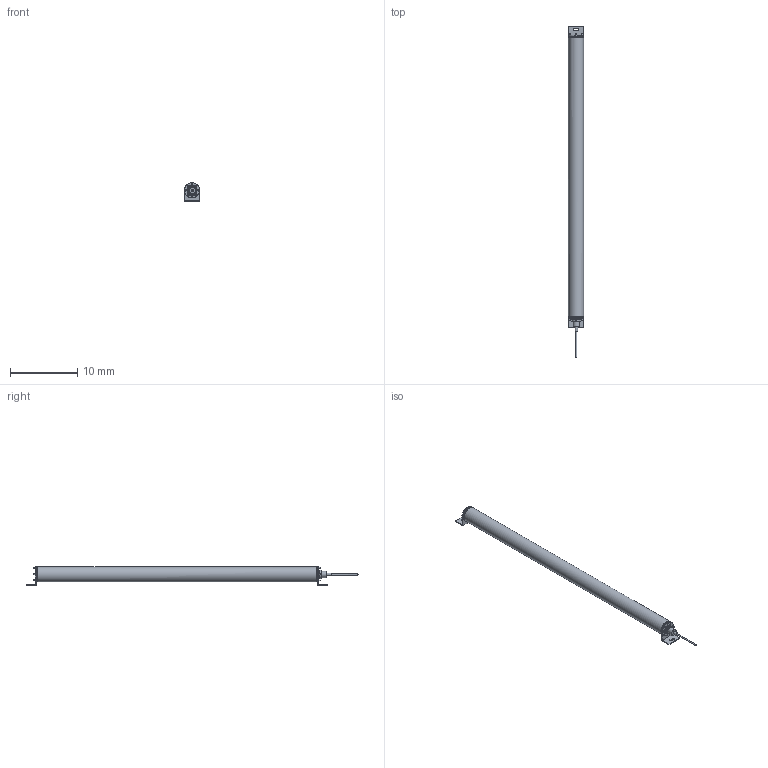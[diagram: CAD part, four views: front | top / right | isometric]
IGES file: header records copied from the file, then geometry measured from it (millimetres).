
Start section:  Autodesk DirectConnect version 7.0.27.0 ---- IGES version 5.3
Global section: file name: C:\ACADFILES\MG_PYLONS\CUSTOMER_FILES\MG-40-PYLON_3D_SMB_PT.iges; native system: Autodesk DirectConnect 7.0.27.0; preprocessor: 7.0.27.0; author: ENGINEERMAIN; organization: Unknown; date: 20150810.142446; units: millimetre
Bounding box: 2.26 x 49.44 x 2.75 mm (x, y, z)
Surface area: 1235.3 mm2 (no closed solid volume)
Topology: 0 solids, 0 shells, 784 faces, 4052 edges, 4055 vertices
Faces by surface type: bspline 784
